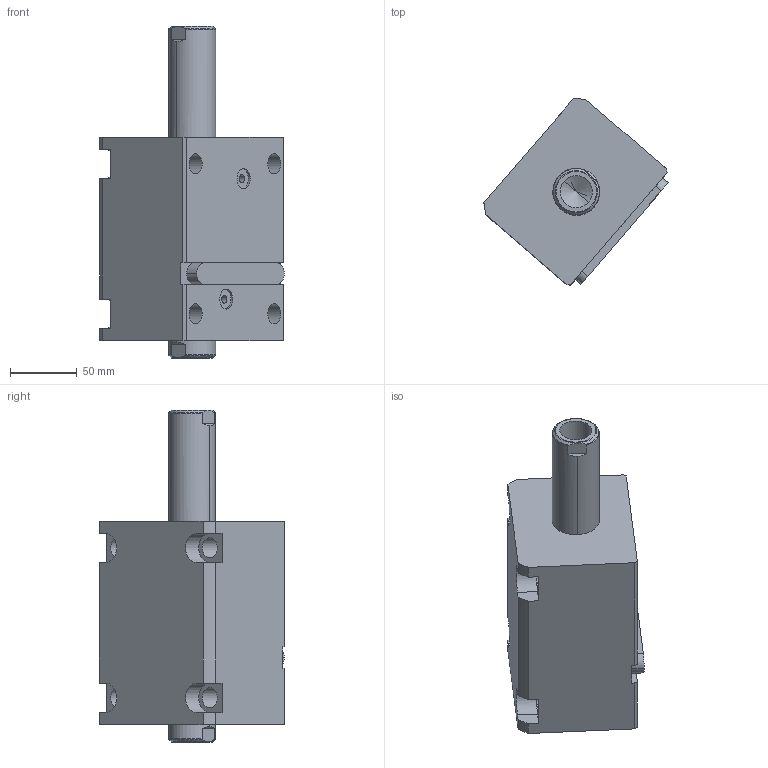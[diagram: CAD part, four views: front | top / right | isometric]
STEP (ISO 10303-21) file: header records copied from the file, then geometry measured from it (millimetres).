
FILE_DESCRIPTION (( 'STEP AP214' ), '1' );
FILE_NAME ('chtb-lwm63x70n_asm.STEP', '2018-05-22T02:20:08', ( 'Windows' ), ( 'Microsoft' ), 'SwSTEP 2.0', 'SolidWorks 2015', '' );
FILE_SCHEMA (( 'AUTOMOTIVE_DESIGN' ));
Length unit declared in the file: millimetre
Products named in the file (5): CHTB-LA63PJ; CHTB-63QG; chtb-lwm63x70n_asm; CHTB-SW63X70NHSG; CHTB-LWM63X70NBT
Assembly tree (4 placements, depth 2):
  chtb-lwm63x70n_asm
    CHTB-63QG
    CHTB-LA63PJ
    CHTB-LWM63X70NBT
    CHTB-SW63X70NHSG
Bounding box: 137.63 x 138.86 x 248 mm (x, y, z)
Volume: 1385499.3 mm3; surface area: 186915.8 mm2
Topology: 4 solids, 4 shells, 186 faces, 543 edges, 367 vertices
Faces by surface type: cylinder 103, plane 47, bspline 12, cone 12, torus 12
Entity records: 18665 total; most frequent: CARTESIAN_POINT 13839, ORIENTED_EDGE 1070, DIRECTION 834, EDGE_CURVE 535, VERTEX_POINT 367, AXIS2_PLACEMENT_3D 318, EDGE_LOOP 212, VECTOR 198
